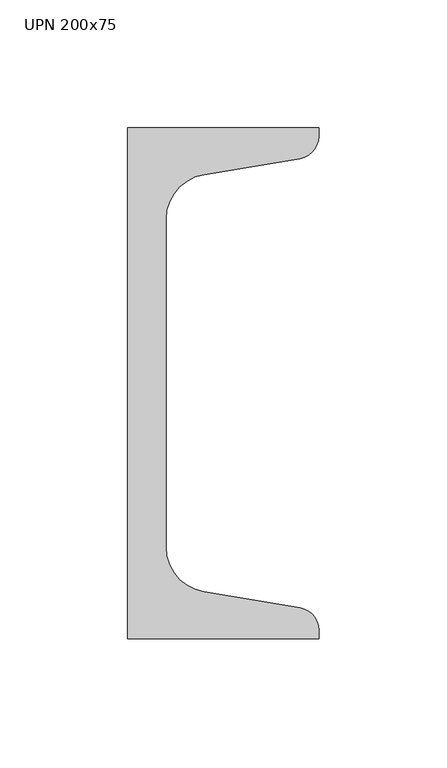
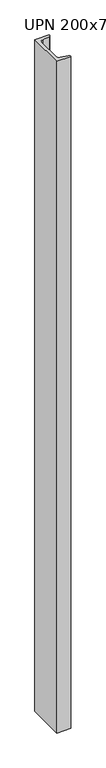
"""IFC4 building model written with IfcOpenShell, lengths in millimetres: column geometry, M_MC Shapes-Column : UPN 200x75."""

from ifc_helpers import new_model, si_unit, point, frame, frame_2d, origin, place, context, project, spatial, polyline, circle_curve, trimmed, segment, composite_curve, outline, extrude, source, transform, mapped, element, save


def upn_200x75_f929c6c0(model_context):
    return source(origin(), model_context, "Body", "SweptSolid", [
        extrude(outline(composite_curve([segment(polyline([(-26.4, -100.0), (-26.4, 100.0), (48.6, 100.0), (48.6, 96.7227759)]), True, "CONTINUOUS"), segment(trimmed(circle_curve(frame_2d((39.7, 96.7227759)), 8.9), [point((48.6, 96.7227759))], [point((41.1631538, 87.9438705))], False, "CARTESIAN"), True, "CONTINUOUS"), segment(polyline([(41.1631538, 87.9438705), (3.4736923, 81.662281)]), True, "CONTINUOUS"), segment(trimmed(circle_curve(frame_2d((6.4, 64.1044701)), 17.8), [point((3.4736923, 81.662281))], [point((-11.4, 64.1044701))], True, "CARTESIAN"), True, "CONTINUOUS"), segment(polyline([(-11.4, 64.1044701), (-11.4, -64.1044701)]), True, "CONTINUOUS"), segment(trimmed(circle_curve(frame_2d((6.4, -64.1044701)), 17.8), [point((-11.4, -64.1044701))], [point((3.4736923, -81.662281))], True, "CARTESIAN"), True, "CONTINUOUS"), segment(polyline([(3.4736923, -81.662281), (41.1631538, -87.9438705)]), True, "CONTINUOUS"), segment(trimmed(circle_curve(frame_2d((39.7, -96.7227759)), 8.9), [point((41.1631538, -87.9438705))], [point((48.6, -96.7227759))], False, "CARTESIAN"), True, "CONTINUOUS"), segment(polyline([(48.6, -96.7227759), (48.6, -100.0), (-26.4, -100.0)]), True, "CONTINUOUS")], self_intersect=False)), frame((0.0, 0.0, 14910.0), z_axis=(0.0, 0.0, 1.0), x_axis=(1.0, 0.0, 0.0)), (0.0, 0.0, 1.0), 3750.0),
    ])


if __name__ == "__main__":
    model = new_model("IFC4")
    model_context = context("Model", 3, world=origin())
    ifc_project = project(units=[si_unit("LENGTHUNIT", "METRE", prefix="MILLI")], contexts=[model_context])
    site = spatial("IfcSite", under=ifc_project)
    building = spatial("IfcBuilding", under=site)
    placement = place(None, origin())
    upn_200x75_shape = upn_200x75_f929c6c0(model_context)
    element("IfcColumn", 1, ObjectType="M_MC Shapes-Column : UPN 200x75", at=placement, inside=building, context=model_context, shape_type="MappedRepresentation", body=[
        mapped(upn_200x75_shape, transform((0.0, 0.0, 0.0), x_axis=(1.0, 0.0, 0.0), y_axis=(0.0, 1.0, 0.0), z_axis=(0.0, 0.0, 1.0))),
    ])
    save(model, "model.ifc")
